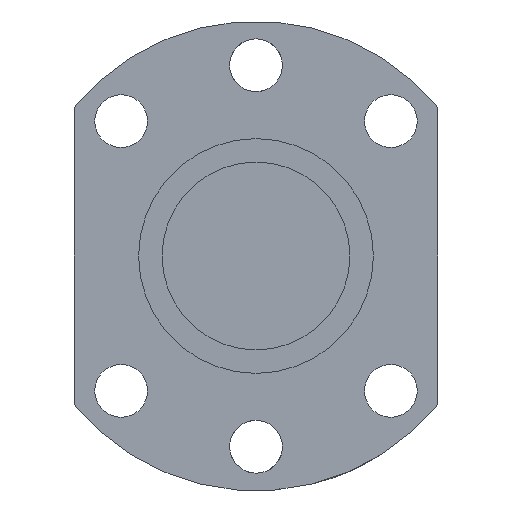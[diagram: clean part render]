
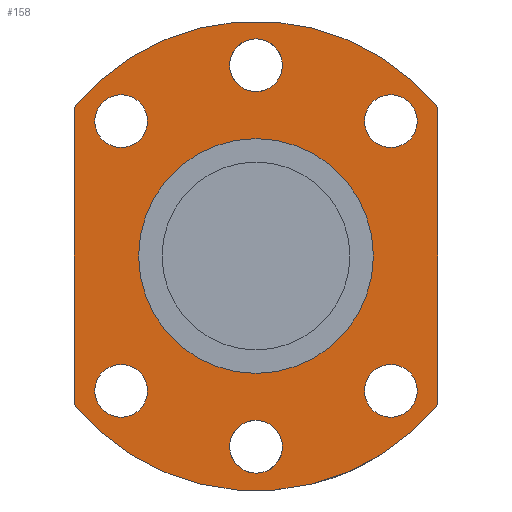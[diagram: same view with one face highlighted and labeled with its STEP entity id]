
A CAD part, front view. The second image highlights one B-rep face of the part: STEP entity #158.
In plain terms, the highlighted planar face has unit normal (0, -1, 0).
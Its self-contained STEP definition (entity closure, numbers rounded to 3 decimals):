
#104=LINE('',#878,#114);
#108=LINE('',#949,#118);
#114=VECTOR('',#683,1.);
#118=VECTOR('',#695,1.);
#139=PLANE('',#611);
#158=ADVANCED_FACE('',(#222,#223,#224,#225,#226,#227,#228,#229),#139,.F.);
#222=FACE_BOUND('',#293,.T.);
#223=FACE_BOUND('',#294,.T.);
#224=FACE_BOUND('',#295,.T.);
#225=FACE_BOUND('',#296,.T.);
#226=FACE_BOUND('',#297,.T.);
#227=FACE_BOUND('',#298,.T.);
#228=FACE_BOUND('',#299,.T.);
#229=FACE_BOUND('',#300,.T.);
#293=EDGE_LOOP('',(#383));
#294=EDGE_LOOP('',(#384));
#295=EDGE_LOOP('',(#385));
#296=EDGE_LOOP('',(#386));
#297=EDGE_LOOP('',(#387));
#298=EDGE_LOOP('',(#388));
#299=EDGE_LOOP('',(#389));
#300=EDGE_LOOP('',(#390,#391,#392,#393));
#383=ORIENTED_EDGE('',*,*,#515,.F.);
#384=ORIENTED_EDGE('',*,*,#516,.F.);
#385=ORIENTED_EDGE('',*,*,#517,.F.);
#386=ORIENTED_EDGE('',*,*,#518,.T.);
#387=ORIENTED_EDGE('',*,*,#519,.T.);
#388=ORIENTED_EDGE('',*,*,#520,.T.);
#389=ORIENTED_EDGE('',*,*,#521,.T.);
#390=ORIENTED_EDGE('',*,*,#495,.F.);
#391=ORIENTED_EDGE('',*,*,#506,.F.);
#392=ORIENTED_EDGE('',*,*,#503,.F.);
#393=ORIENTED_EDGE('',*,*,#499,.F.);
#451=VERTEX_POINT('',#870);
#452=VERTEX_POINT('',#871);
#455=VERTEX_POINT('',#879);
#458=VERTEX_POINT('',#944);
#467=VERTEX_POINT('',#968);
#468=VERTEX_POINT('',#970);
#469=VERTEX_POINT('',#972);
#470=VERTEX_POINT('',#974);
#471=VERTEX_POINT('',#976);
#472=VERTEX_POINT('',#978);
#473=VERTEX_POINT('',#980);
#495=EDGE_CURVE('',#451,#452,#544,.T.);
#499=EDGE_CURVE('',#452,#455,#104,.T.);
#503=EDGE_CURVE('',#455,#458,#546,.T.);
#506=EDGE_CURVE('',#458,#451,#108,.T.);
#515=EDGE_CURVE('',#467,#467,#555,.T.);
#516=EDGE_CURVE('',#468,#468,#556,.T.);
#517=EDGE_CURVE('',#469,#469,#557,.T.);
#518=EDGE_CURVE('',#470,#470,#558,.T.);
#519=EDGE_CURVE('',#471,#471,#559,.T.);
#520=EDGE_CURVE('',#472,#472,#560,.T.);
#521=EDGE_CURVE('',#473,#473,#561,.T.);
#544=CIRCLE('',#588,40.);
#546=CIRCLE('',#592,40.);
#555=CIRCLE('',#604,4.5);
#556=CIRCLE('',#605,4.5);
#557=CIRCLE('',#606,4.5);
#558=CIRCLE('',#607,4.5);
#559=CIRCLE('',#608,4.5);
#560=CIRCLE('',#609,4.5);
#561=CIRCLE('',#610,20.);
#588=AXIS2_PLACEMENT_3D('',#869,#675,#676);
#592=AXIS2_PLACEMENT_3D('',#943,#688,#689);
#604=AXIS2_PLACEMENT_3D('',#967,#715,#716);
#605=AXIS2_PLACEMENT_3D('',#969,#717,#718);
#606=AXIS2_PLACEMENT_3D('',#971,#719,#720);
#607=AXIS2_PLACEMENT_3D('',#973,#721,#722);
#608=AXIS2_PLACEMENT_3D('',#975,#723,#724);
#609=AXIS2_PLACEMENT_3D('',#977,#725,#726);
#610=AXIS2_PLACEMENT_3D('',#979,#727,#728);
#611=AXIS2_PLACEMENT_3D('',#981,#729,#730);
#675=DIRECTION('',(0.,1.,0.));
#676=DIRECTION('',(1.,0.,0.));
#683=DIRECTION('',(0.,0.,-1.));
#688=DIRECTION('',(0.,1.,0.));
#689=DIRECTION('',(1.,0.,0.));
#695=DIRECTION('',(0.,0.,1.));
#715=DIRECTION('',(0.,-1.,0.));
#716=DIRECTION('',(-1.,0.,0.));
#717=DIRECTION('',(0.,-1.,0.));
#718=DIRECTION('',(-0.707,0.,-0.707));
#719=DIRECTION('',(0.,-1.,0.));
#720=DIRECTION('',(0.,0.,-1.));
#721=DIRECTION('',(0.,1.,0.));
#722=DIRECTION('',(-1.,0.,0.));
#723=DIRECTION('',(0.,1.,0.));
#724=DIRECTION('',(-0.707,0.,0.707));
#725=DIRECTION('',(0.,1.,0.));
#726=DIRECTION('',(0.,0.,1.));
#727=DIRECTION('',(0.,1.,0.));
#728=DIRECTION('',(0.,0.,1.));
#729=DIRECTION('',(0.,1.,0.));
#730=DIRECTION('',(0.,0.,-1.));
#869=CARTESIAN_POINT('',(0.,-26.,0.));
#870=CARTESIAN_POINT('',(-31.,-26.,25.278));
#871=CARTESIAN_POINT('',(31.,-26.,25.278));
#878=CARTESIAN_POINT('',(31.,-26.,25.278));
#879=CARTESIAN_POINT('',(31.,-26.,-25.278));
#943=CARTESIAN_POINT('',(0.,-26.,0.));
#944=CARTESIAN_POINT('',(-31.,-26.,-25.278));
#949=CARTESIAN_POINT('',(-31.,-26.,-25.278));
#967=CARTESIAN_POINT('',(22.981,-26.,22.981));
#968=CARTESIAN_POINT('',(18.481,-26.,22.981));
#969=CARTESIAN_POINT('',(0.,-26.,32.5));
#970=CARTESIAN_POINT('',(-3.182,-26.,29.318));
#971=CARTESIAN_POINT('',(-22.981,-26.,22.981));
#972=CARTESIAN_POINT('',(-22.981,-26.,18.481));
#973=CARTESIAN_POINT('',(22.981,-26.,-22.981));
#974=CARTESIAN_POINT('',(18.481,-26.,-22.981));
#975=CARTESIAN_POINT('',(0.,-26.,-32.5));
#976=CARTESIAN_POINT('',(-3.182,-26.,-29.318));
#977=CARTESIAN_POINT('',(-22.981,-26.,-22.981));
#978=CARTESIAN_POINT('',(-22.981,-26.,-18.481));
#979=CARTESIAN_POINT('',(0.,-26.,0.));
#980=CARTESIAN_POINT('',(0.,-26.,20.));
#981=CARTESIAN_POINT('',(0.,-26.,0.));
